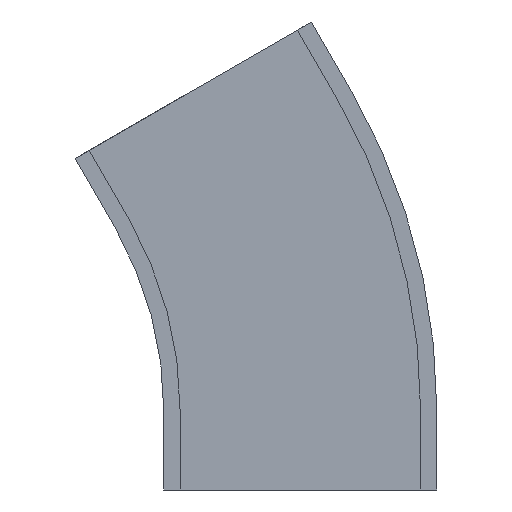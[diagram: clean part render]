
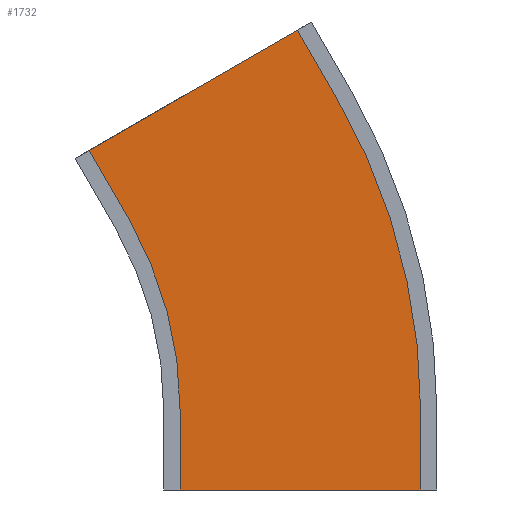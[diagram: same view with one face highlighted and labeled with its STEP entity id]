
A CAD part, front view. The second image highlights one B-rep face of the part: STEP entity #1732.
In plain terms, the highlighted planar face has unit normal (0, -1, 0).
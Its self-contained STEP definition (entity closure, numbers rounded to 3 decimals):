
#10 = CARTESIAN_POINT ( 'NONE',  ( 422.274, -68., 243.8 ) ) ;
#43 = DIRECTION ( 'NONE',  ( -1., 0., 0. ) ) ;
#46 = DIRECTION ( 'NONE',  ( 0., 1., 0. ) ) ;
#132 = CARTESIAN_POINT ( 'NONE',  ( 487.6, -68., -100. ) ) ;
#168 = CARTESIAN_POINT ( 'NONE',  ( 487.6, -68., 0. ) ) ;
#173 = CARTESIAN_POINT ( 'NONE',  ( 792.4, -68., -100. ) ) ;
#182 = CARTESIAN_POINT ( 'NONE',  ( 686.239, -68., 396.2 ) ) ;
#195 = CARTESIAN_POINT ( 'NONE',  ( 636.239, -68., 482.803 ) ) ;
#200 = CARTESIAN_POINT ( 'NONE',  ( 422.274, -68., 243.8 ) ) ;
#205 = CARTESIAN_POINT ( 'NONE',  ( 792.4, -68., 0. ) ) ;
#233 = PLANE ( 'NONE',  #1793 ) ;
#246 = CARTESIAN_POINT ( 'NONE',  ( 372.274, -68., 330.403 ) ) ;
#409 = ORIENTED_EDGE ( 'NONE', *, *, #1767, .F. ) ;
#416 = ORIENTED_EDGE ( 'NONE', *, *, #1930, .F. ) ;
#417 = ORIENTED_EDGE ( 'NONE', *, *, #1929, .T. ) ;
#421 = ORIENTED_EDGE ( 'NONE', *, *, #1920, .F. ) ;
#422 = ORIENTED_EDGE ( 'NONE', *, *, #1765, .F. ) ;
#452 = ORIENTED_EDGE ( 'NONE', *, *, #1888, .T. ) ;
#466 = VECTOR ( 'NONE', #1014, 1000. ) ;
#613 = LINE ( 'NONE', #1015, #466 ) ;
#630 = ORIENTED_EDGE ( 'NONE', *, *, #1768, .F. ) ;
#640 = ORIENTED_EDGE ( 'NONE', *, *, #1762, .T. ) ;
#776 = LINE ( 'NONE', #977, #786 ) ;
#786 = VECTOR ( 'NONE', #1115, 1000. ) ;
#787 = CIRCLE ( 'NONE', #1187, 792.4 ) ;
#792 = VECTOR ( 'NONE', #992, 1000. ) ;
#814 = CIRCLE ( 'NONE', #1759, 487.6 ) ;
#913 = LINE ( 'NONE', #1003, #792 ) ;
#953 = FACE_OUTER_BOUND ( 'NONE', #1588, .T. ) ;
#977 = CARTESIAN_POINT ( 'NONE',  ( 636.239, -68., 482.803 ) ) ;
#978 = CARTESIAN_POINT ( 'NONE',  ( 0., -68., 0. ) ) ;
#984 = DIRECTION ( 'NONE',  ( 0., 1., 0. ) ) ;
#988 = DIRECTION ( 'NONE',  ( -1., 0., 0. ) ) ;
#992 = DIRECTION ( 'NONE',  ( 0.866, 0., 0.5 ) ) ;
#1003 = CARTESIAN_POINT ( 'NONE',  ( -50., -68., 86.603 ) ) ;
#1006 = CARTESIAN_POINT ( 'NONE',  ( 0., -68., 0. ) ) ;
#1012 = DIRECTION ( 'NONE',  ( 0., 1., 0. ) ) ;
#1014 = DIRECTION ( 'NONE',  ( 0., 0., 1. ) ) ;
#1015 = CARTESIAN_POINT ( 'NONE',  ( 792.4, -68., -100. ) ) ;
#1115 = DIRECTION ( 'NONE',  ( 0.5, 0., -0.866 ) ) ;
#1148 = DIRECTION ( 'NONE',  ( -1., 0., 0. ) ) ;
#1187 = AXIS2_PLACEMENT_3D ( 'NONE', #1006, #1012, #1148 ) ;
#1254 = CARTESIAN_POINT ( 'NONE',  ( 487.6, -68., -100. ) ) ;
#1277 = DIRECTION ( 'NONE',  ( -1., 0., 0. ) ) ;
#1295 = DIRECTION ( 'NONE',  ( 0., 0., 1. ) ) ;
#1302 = CARTESIAN_POINT ( 'NONE',  ( 0., -68., -100. ) ) ;
#1308 = CARTESIAN_POINT ( 'NONE',  ( 372.274, -68., 330.403 ) ) ;
#1327 = DIRECTION ( 'NONE',  ( 0.5, 0., -0.866 ) ) ;
#1393 = VECTOR ( 'NONE', #1295, 1000. ) ;
#1453 = LINE ( 'NONE', #1254, #1393 ) ;
#1467 = VECTOR ( 'NONE', #1277, 1000. ) ;
#1469 = VECTOR ( 'NONE', #1327, 1000. ) ;
#1470 = LINE ( 'NONE', #1302, #1467 ) ;
#1471 = LINE ( 'NONE', #1308, #1469 ) ;
#1477 = VERTEX_POINT ( 'NONE', #205 ) ;
#1486 = VERTEX_POINT ( 'NONE', #200 ) ;
#1528 = VERTEX_POINT ( 'NONE', #195 ) ;
#1533 = VERTEX_POINT ( 'NONE', #168 ) ;
#1546 = VERTEX_POINT ( 'NONE', #173 ) ;
#1588 = EDGE_LOOP ( 'NONE', ( #409, #422, #630, #417, #640, #421, #416, #452 ) ) ;
#1596 = VERTEX_POINT ( 'NONE', #182 ) ;
#1597 = VERTEX_POINT ( 'NONE', #246 ) ;
#1647 = VERTEX_POINT ( 'NONE', #132 ) ;
#1732 = ADVANCED_FACE ( 'NONE', ( #953 ), #233, .F. ) ;
#1759 = AXIS2_PLACEMENT_3D ( 'NONE', #978, #984, #988 ) ;
#1762 = EDGE_CURVE ( 'NONE', #1486, #1533, #814, .T. ) ;
#1765 = EDGE_CURVE ( 'NONE', #1528, #1596, #776, .T. ) ;
#1767 = EDGE_CURVE ( 'NONE', #1596, #1477, #787, .T. ) ;
#1768 = EDGE_CURVE ( 'NONE', #1597, #1528, #913, .T. ) ;
#1793 = AXIS2_PLACEMENT_3D ( 'NONE', #10, #46, #43 ) ;
#1888 = EDGE_CURVE ( 'NONE', #1546, #1477, #613, .T. ) ;
#1920 = EDGE_CURVE ( 'NONE', #1647, #1533, #1453, .T. ) ;
#1929 = EDGE_CURVE ( 'NONE', #1597, #1486, #1471, .T. ) ;
#1930 = EDGE_CURVE ( 'NONE', #1546, #1647, #1470, .T. ) ;
